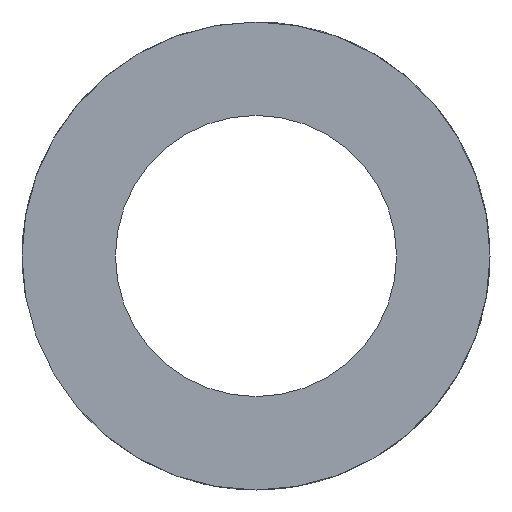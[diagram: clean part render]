
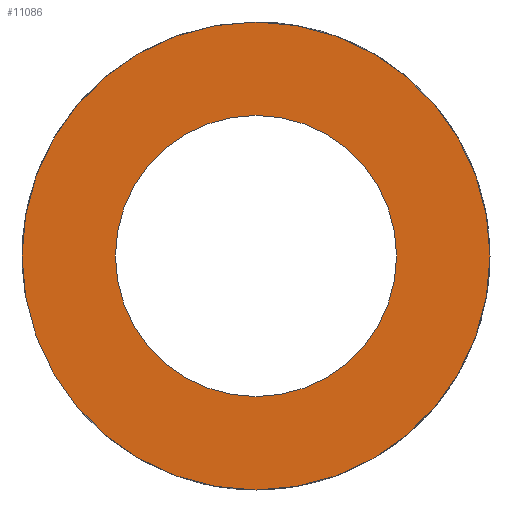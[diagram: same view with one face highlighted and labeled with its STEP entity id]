
A CAD part, left-side view. The second image highlights one B-rep face of the part: STEP entity #11086.
In plain terms, the highlighted planar face has unit normal (-1, 0, 0).
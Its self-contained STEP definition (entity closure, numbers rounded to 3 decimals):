
#32 = CYLINDRICAL_SURFACE('',#33,12.5);
#33 = AXIS2_PLACEMENT_3D('',#34,#35,#36);
#34 = CARTESIAN_POINT('',(34.4,-92.,-57.));
#35 = DIRECTION('',(1.,0.,0.));
#36 = DIRECTION('',(-0.,0.,1.));
#8143 = VERTEX_POINT('',#8144);
#8144 = CARTESIAN_POINT('',(34.4,-92.,-44.5));
#8165 = EDGE_CURVE('',#8143,#8143,#8166,.T.);
#8166 = SURFACE_CURVE('',#8167,(#8172,#8179),.PCURVE_S1.);
#8167 = CIRCLE('',#8168,12.5);
#8168 = AXIS2_PLACEMENT_3D('',#8169,#8170,#8171);
#8169 = CARTESIAN_POINT('',(34.4,-92.,-57.));
#8170 = DIRECTION('',(1.,0.,0.));
#8171 = DIRECTION('',(-0.,0.,1.));
#8172 = PCURVE('',#32,#8173);
#8173 = DEFINITIONAL_REPRESENTATION('',(#8174),#8178);
#8174 = LINE('',#8175,#8176);
#8175 = CARTESIAN_POINT('',(0.,0.));
#8176 = VECTOR('',#8177,1.);
#8177 = DIRECTION('',(1.,0.));
#8178 = ( GEOMETRIC_REPRESENTATION_CONTEXT(2) 
PARAMETRIC_REPRESENTATION_CONTEXT() REPRESENTATION_CONTEXT('2D SPACE',''
  ) );
#8179 = PCURVE('',#8180,#8185);
#8180 = PLANE('',#8181);
#8181 = AXIS2_PLACEMENT_3D('',#8182,#8183,#8184);
#8182 = CARTESIAN_POINT('',(34.4,-92.,-57.));
#8183 = DIRECTION('',(1.,0.,0.));
#8184 = DIRECTION('',(-0.,0.,1.));
#8185 = DEFINITIONAL_REPRESENTATION('',(#8186),#8190);
#8186 = CIRCLE('',#8187,12.5);
#8187 = AXIS2_PLACEMENT_2D('',#8188,#8189);
#8188 = CARTESIAN_POINT('',(0.,0.));
#8189 = DIRECTION('',(1.,0.));
#8190 = ( GEOMETRIC_REPRESENTATION_CONTEXT(2) 
PARAMETRIC_REPRESENTATION_CONTEXT() REPRESENTATION_CONTEXT('2D SPACE',''
  ) );
#11086 = ADVANCED_FACE('',(#11087,#11090),#8180,.F.);
#11087 = FACE_BOUND('',#11088,.F.);
#11088 = EDGE_LOOP('',(#11089));
#11089 = ORIENTED_EDGE('',*,*,#8165,.T.);
#11090 = FACE_BOUND('',#11091,.F.);
#11091 = EDGE_LOOP('',(#11092));
#11092 = ORIENTED_EDGE('',*,*,#11093,.F.);
#11093 = EDGE_CURVE('',#11094,#11094,#11096,.T.);
#11094 = VERTEX_POINT('',#11095);
#11095 = CARTESIAN_POINT('',(34.4,-92.,-49.49));
#11096 = SURFACE_CURVE('',#11097,(#11102,#11109),.PCURVE_S1.);
#11097 = CIRCLE('',#11098,7.51);
#11098 = AXIS2_PLACEMENT_3D('',#11099,#11100,#11101);
#11099 = CARTESIAN_POINT('',(34.4,-92.,-57.));
#11100 = DIRECTION('',(1.,0.,0.));
#11101 = DIRECTION('',(-0.,0.,1.));
#11102 = PCURVE('',#8180,#11103);
#11103 = DEFINITIONAL_REPRESENTATION('',(#11104),#11108);
#11104 = CIRCLE('',#11105,7.51);
#11105 = AXIS2_PLACEMENT_2D('',#11106,#11107);
#11106 = CARTESIAN_POINT('',(0.,0.));
#11107 = DIRECTION('',(1.,0.));
#11108 = ( GEOMETRIC_REPRESENTATION_CONTEXT(2) 
PARAMETRIC_REPRESENTATION_CONTEXT() REPRESENTATION_CONTEXT('2D SPACE',''
  ) );
#11109 = PCURVE('',#11110,#11115);
#11110 = CYLINDRICAL_SURFACE('',#11111,7.51);
#11111 = AXIS2_PLACEMENT_3D('',#11112,#11113,#11114);
#11112 = CARTESIAN_POINT('',(34.39,-92.,-57.));
#11113 = DIRECTION('',(1.,0.,0.));
#11114 = DIRECTION('',(-0.,0.,1.));
#11115 = DEFINITIONAL_REPRESENTATION('',(#11116),#11120);
#11116 = LINE('',#11117,#11118);
#11117 = CARTESIAN_POINT('',(0.,0.01));
#11118 = VECTOR('',#11119,1.);
#11119 = DIRECTION('',(1.,0.));
#11120 = ( GEOMETRIC_REPRESENTATION_CONTEXT(2) 
PARAMETRIC_REPRESENTATION_CONTEXT() REPRESENTATION_CONTEXT('2D SPACE',''
  ) );
